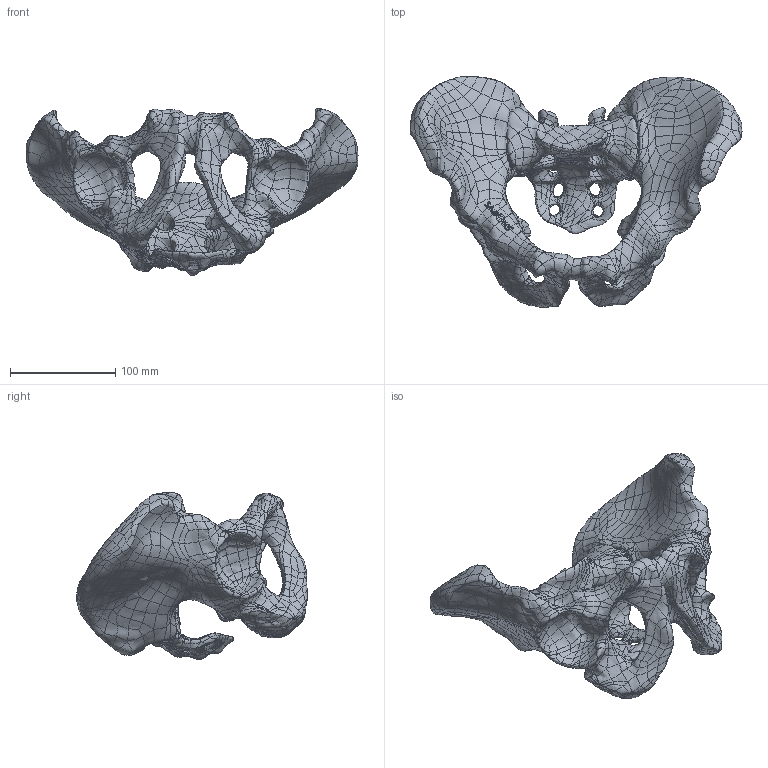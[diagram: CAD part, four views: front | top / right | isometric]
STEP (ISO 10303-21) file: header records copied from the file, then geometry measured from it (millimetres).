
FILE_DESCRIPTION (( 'STEP AP203' ), '1' );
FILE_NAME ('1301.STEP', '2025-06-05T20:19:46', ( '' ), ( '' ), 'SwSTEP 2.0', 'SolidWorks 2024', '' );
FILE_SCHEMA (( 'CONFIG_CONTROL_DESIGN' ));
Products named in the file (1): 1301
Bounding box: 314.91 x 219.15 x 158.71 mm (x, y, z)
Volume: 1201392.6 mm3; surface area: 171470.5 mm2
Topology: 1 solids, 1 shells, 2877 faces, 5938 edges, 3045 vertices
Faces by surface type: bspline 2876, plane 1
Entity records: 894083 total; most frequent: CARTESIAN_POINT 855683, ORIENTED_EDGE 11876, B_SPLINE_CURVE_WITH_KNOTS 5938, EDGE_CURVE 5938, VERTEX_POINT 3045, EDGE_LOOP 2881, ADVANCED_FACE 2877, FACE_OUTER_BOUND 2877
